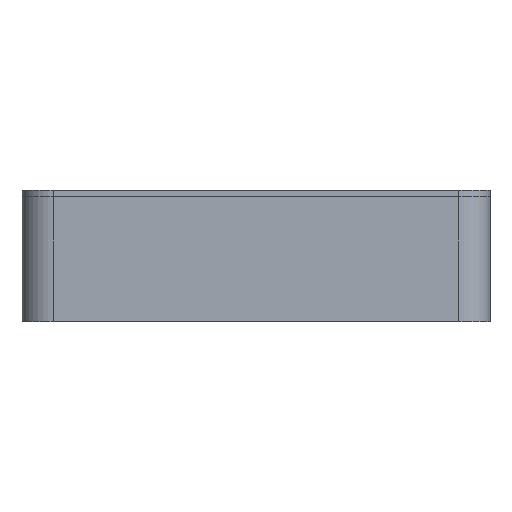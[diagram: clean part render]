
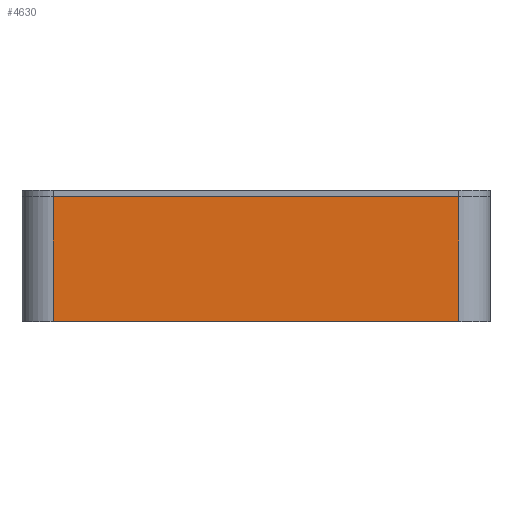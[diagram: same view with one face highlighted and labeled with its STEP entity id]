
A CAD part, left-side view. The second image highlights one B-rep face of the part: STEP entity #4630.
In plain terms, the highlighted planar face has unit normal (-1, 0, 0).
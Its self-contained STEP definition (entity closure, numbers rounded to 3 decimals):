
#1284=DIRECTION('',(0.,1.,0.));
#1285=VECTOR('',#1284,13.);
#1286=CARTESIAN_POINT('',(-7.5,-6.5,1.9));
#1287=LINE('',#1286,#1285);
#1608=DIRECTION('',(0.,0.,1.));
#1609=VECTOR('',#1608,4.);
#1610=CARTESIAN_POINT('',(-7.5,-6.5,-2.1));
#1611=LINE('',#1610,#1609);
#1612=DIRECTION('',(0.,1.,0.));
#1613=VECTOR('',#1612,13.);
#1614=CARTESIAN_POINT('',(-7.5,-6.5,-2.1));
#1615=LINE('',#1614,#1613);
#1616=DIRECTION('',(0.,0.,-1.));
#1617=VECTOR('',#1616,4.);
#1618=CARTESIAN_POINT('',(-7.5,6.5,1.9));
#1619=LINE('',#1618,#1617);
#2531=CARTESIAN_POINT('',(-7.5,6.5,-2.1));
#2532=VERTEX_POINT('',#2531);
#2533=CARTESIAN_POINT('',(-7.5,-6.5,-2.1));
#2534=VERTEX_POINT('',#2533);
#2703=CARTESIAN_POINT('',(-7.5,-6.5,1.9));
#2704=VERTEX_POINT('',#2703);
#2705=CARTESIAN_POINT('',(-7.5,6.5,1.9));
#2706=VERTEX_POINT('',#2705);
#4618=CARTESIAN_POINT('',(-7.5,7.5,-2.1));
#4619=DIRECTION('',(-1.,0.,0.));
#4620=DIRECTION('',(0.,-1.,0.));
#4621=AXIS2_PLACEMENT_3D('',#4618,#4619,#4620);
#4622=PLANE('',#4621);
#4623=ORIENTED_EDGE('',*,*,#4271,.F.);
#4624=ORIENTED_EDGE('',*,*,#4613,.F.);
#4625=ORIENTED_EDGE('',*,*,#3679,.T.);
#4627=ORIENTED_EDGE('',*,*,#4626,.F.);
#4628=EDGE_LOOP('',(#4623,#4624,#4625,#4627));
#4629=FACE_OUTER_BOUND('',#4628,.F.);
#4630=ADVANCED_FACE('',(#4629),#4622,.T.);
#3679=EDGE_CURVE('',#2534,#2532,#1615,.T.);
#4271=EDGE_CURVE('',#2704,#2706,#1287,.T.);
#4613=EDGE_CURVE('',#2534,#2704,#1611,.T.);
#4626=EDGE_CURVE('',#2706,#2532,#1619,.T.);
